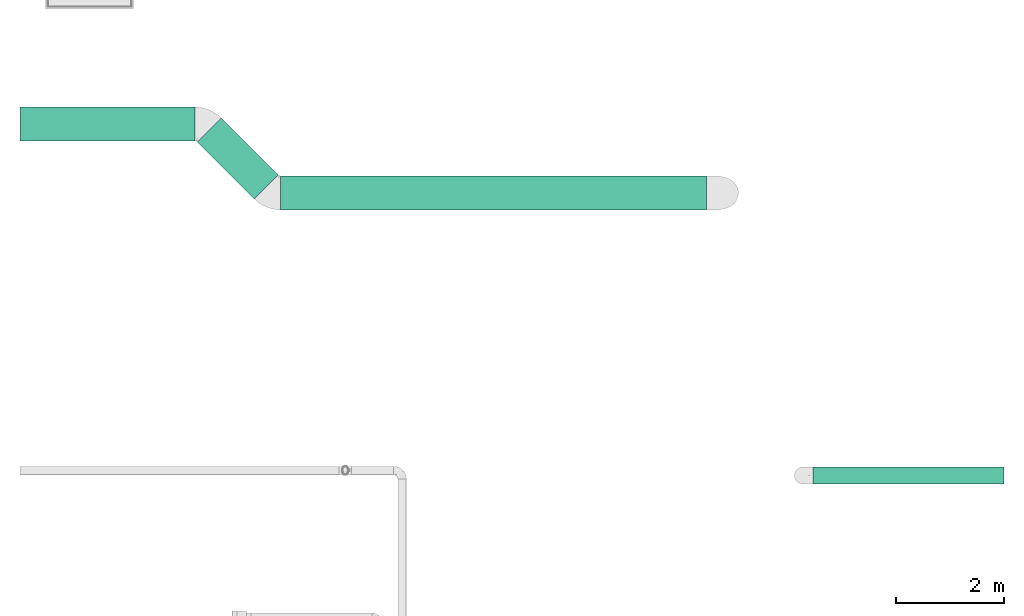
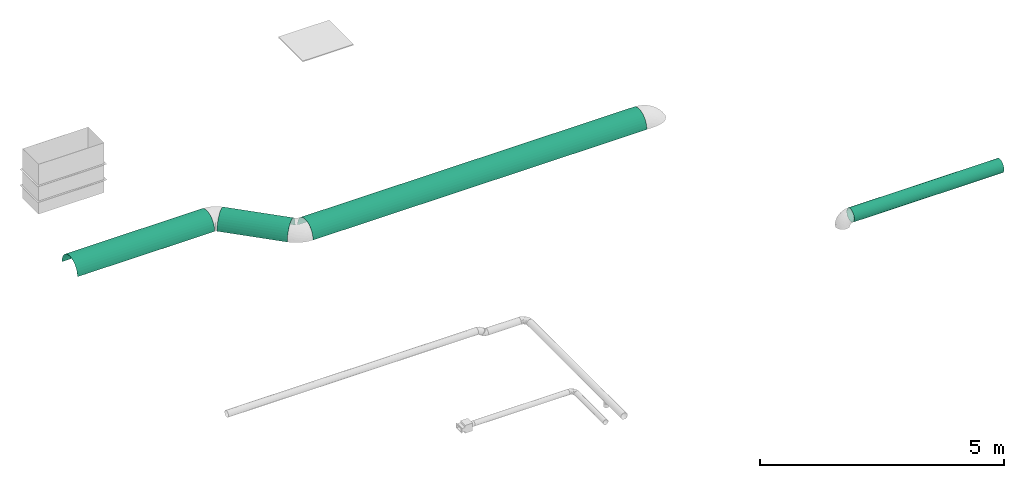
# One storey, part 4 of 10: 4 flow segments.
"""IFC2X3 building model written with IfcOpenShell, lengths in millimetres."""

from ifc_helpers import new_model, entity, si_unit, converted_unit, derived_unit, direction, frame, place, context, subcontext, project, spatial, faceted_brep, type_object, element, save


model = new_model("IFC2X3")

# Units and contexts
model_context = context("Model", 3, precision=0.01, world=frame((0.0, 4.29681676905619e-09, 0.0)), true_north=direction((4.01073788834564e-13, 1.0)))
plan_context = context("Plan", 3, precision=0.01, world=frame((0.0, 4.29681676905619e-09, 0.0)), true_north=direction((4.01073788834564e-13, 1.0)))
body_context = subcontext(model_context, "Body", "Model", "MODEL_VIEW")
ifc_project = project(units=[converted_unit("PLANEANGLEUNIT", "DEGREE", entity("IfcPositiveLengthMeasure", 0.0174532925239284), si_unit("PLANEANGLEUNIT", "RADIAN"), dimensions=[0, 0, 0, 0, 0, 0, 0]), si_unit("AREAUNIT", "SQUARE_METRE"), si_unit("LENGTHUNIT", "METRE", prefix="MILLI"), si_unit("MASSUNIT", "GRAM", prefix="KILO"), si_unit("POWERUNIT", "WATT"), si_unit("PRESSUREUNIT", "PASCAL"), si_unit("FORCEUNIT", "NEWTON", prefix="KILO"), si_unit("ELECTRICCURRENTUNIT", "AMPERE"), si_unit("THERMODYNAMICTEMPERATUREUNIT", "DEGREE_CELSIUS"), si_unit("TIMEUNIT", "SECOND"), si_unit("VOLUMEUNIT", "CUBIC_METRE"), derived_unit("LINEARVELOCITYUNIT", [(si_unit("LENGTHUNIT", "METRE"), 1), (si_unit("TIMEUNIT", "SECOND"), -1)]), derived_unit("VOLUMETRICFLOWRATEUNIT", [(si_unit("VOLUMEUNIT", "CUBIC_METRE"), 1), (si_unit("TIMEUNIT", "SECOND"), -1)]), derived_unit("THERMALTRANSMITTANCEUNIT", [(si_unit("POWERUNIT", "WATT"), 1), (si_unit("THERMODYNAMICTEMPERATUREUNIT", "KELVIN"), -1), (si_unit("AREAUNIT", "SQUARE_METRE"), -1)])], contexts=[model_context, plan_context])

# Site, building, storey
site_placement = place(None, frame((0.0, -4.29681676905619e-09, 0.0), z_axis=(0.0, 0.0, 1.0), x_axis=(1.0, 0.0, 0.0)))
site = spatial("IfcSite", under=ifc_project, at=site_placement, CompositionType="ELEMENT")
building_placement = place(site_placement, frame((0.0, 4.29681676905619e-09, 0.0), z_axis=(0.0, 0.0, 1.0), x_axis=(1.0, 0.0, 0.0)))
building = spatial("IfcBuilding", under=site, at=building_placement, Name="mc-building", CompositionType="ELEMENT")
storey_placement = place(building_placement, frame((0.0, 0.0, 200300.0), z_axis=(0.0, 0.0, 1.0), x_axis=(1.0, 0.0, 0.0)))
storey = spatial("IfcBuildingStorey", under=building, at=storey_placement, Name="Nivå C", CompositionType="ELEMENT", Elevation=200300.0)

# Flow segments
duct_segment_type = type_object("IfcDuctSegmentType", Name="KK003T - Spiro kanaler, Stålrør", PredefinedType="RIGIDSEGMENT")
flow_segment_1_placement = place(storey_placement, frame((512768.35399, 411281.0, 2715.0), z_axis=(0.0, 0.0, 1.0), x_axis=(1.0, 0.0, 0.0)))
element("IfcFlowSegment", 1, at=flow_segment_1_placement, inside=storey, type_object=duct_segment_type, Name="KK003T - Spiro kanaler, Stålrør", context=body_context, shape_type="Brep", body=[
    faceted_brep([(4336.9, 311.687670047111, -15.0), (1094.14601000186, 311.687670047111, -15.0), (1094.14601000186, 313.0, 0.0), (4336.9, 313.0, 0.0), (1094.14601000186, -313.0, 3.83314448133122e-14), (1094.14601000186, -311.687670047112, -15.0), (4336.9, -311.687670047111, -15.0), (4336.9, -313.0, 3.83314448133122e-14), (1094.14601000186, -308.244826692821, 54.3518796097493), (4336.9, -308.244826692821, 54.3518796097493), (1094.14601000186, -294.123790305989, 107.052304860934), (4336.9, -294.123790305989, 107.052304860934), (1094.14601000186, -271.065951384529, 156.5), (4336.9, -271.065951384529, 156.5), (1094.14601000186, -239.77191069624, 201.192521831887), (4336.9, -239.77191069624, 201.192521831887), (1094.14601000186, -201.192521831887, 239.77191069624), (4336.9, -201.192521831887, 239.77191069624), (1094.14601000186, -156.5, 271.065951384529), (4336.9, -156.5, 271.065951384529), (1094.14601000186, -107.052304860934, 294.123790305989), (4336.9, -107.052304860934, 294.123790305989), (1094.14601000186, -54.3518796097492, 308.244826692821), (4336.9, -54.3518796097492, 308.244826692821), (1094.14601000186, 1.91657224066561e-14, 313.0), (4336.9, 1.91657224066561e-14, 313.0), (1094.14601000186, 54.3518796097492, 308.244826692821), (4336.9, 54.3518796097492, 308.244826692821), (1094.14601000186, 107.052304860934, 294.123790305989), (4336.9, 107.052304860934, 294.123790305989), (1094.14601000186, 156.5, 271.065951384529), (4336.9, 156.5, 271.065951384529), (1094.14601000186, 201.192521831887, 239.77191069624), (4336.9, 201.192521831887, 239.77191069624), (1094.14601000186, 239.77191069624, 201.192521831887), (4336.9, 239.77191069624, 201.192521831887), (1094.14601000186, 271.065951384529, 156.5), (4336.9, 271.065951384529, 156.5), (1094.14601000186, 294.123790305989, 107.052304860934), (4336.9, 294.123790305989, 107.052304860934), (1094.14601000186, 308.244826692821, 54.3518796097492), (4336.9, 308.244826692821, 54.3518796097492), (1094.14601000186, 315.0, 0.0), (4336.9, 313.687670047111, -15.0), (4336.9, 315.0, 0.0), (1094.14601000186, 310.214442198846, 54.6991759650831), (4336.9, 310.214442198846, 54.6991759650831), (1094.14601000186, 296.003175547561, 107.736345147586), (4336.9, 296.003175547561, 107.736345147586), (1094.14601000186, 272.798002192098, 157.5), (4336.9, 272.798002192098, 157.5), (1094.14601000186, 241.303999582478, 202.47809705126), (4336.9, 241.303999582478, 202.47809705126), (1094.14601000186, 202.47809705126, 241.303999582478), (4336.9, 202.47809705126, 241.303999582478), (1094.14601000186, 157.5, 272.798002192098), (4336.9, 157.5, 272.798002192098), (1094.14601000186, 107.736345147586, 296.003175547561), (4336.9, 107.736345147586, 296.003175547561), (1094.14601000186, 54.6991759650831, 310.214442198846), (4336.9, 54.6991759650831, 310.214442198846), (1094.14601000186, 1.92881870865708e-14, 315.0), (4336.9, 1.92881870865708e-14, 315.0), (1094.14601000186, -54.699175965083, 310.214442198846), (4336.9, -54.699175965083, 310.214442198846), (1094.14601000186, -107.736345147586, 296.003175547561), (4336.9, -107.736345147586, 296.003175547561), (1094.14601000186, -157.5, 272.798002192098), (4336.9, -157.5, 272.798002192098), (1094.14601000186, -202.47809705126, 241.303999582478), (4336.9, -202.47809705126, 241.303999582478), (1094.14601000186, -241.303999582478, 202.47809705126), (4336.9, -241.303999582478, 202.47809705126), (1094.14601000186, -272.798002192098, 157.5), (4336.9, -272.798002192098, 157.5), (1094.14601000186, -296.003175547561, 107.736345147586), (4336.9, -296.003175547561, 107.736345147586), (1094.14601000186, -310.214442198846, 54.6991759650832), (4336.9, -310.214442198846, 54.6991759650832), (1094.14601000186, -315.0, 3.85763741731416e-14), (4336.9, -315.0, 3.85763741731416e-14), (4336.9, -313.687670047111, -15.0), (1094.14601000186, 313.687670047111, -15.0), (1094.14601000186, -313.687670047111, -15.0)], [[[0, 1, 2, 3]], [[4, 5, 6, 7]], [[8, 4, 7, 9]], [[10, 8, 9, 11]], [[12, 10, 11, 13]], [[14, 12, 13, 15]], [[16, 14, 15, 17]], [[18, 16, 17, 19]], [[20, 18, 19, 21]], [[22, 20, 21, 23]], [[24, 22, 23, 25]], [[26, 24, 25, 27]], [[28, 26, 27, 29]], [[30, 28, 29, 31]], [[32, 30, 31, 33]], [[34, 32, 33, 35]], [[36, 34, 35, 37]], [[38, 36, 37, 39]], [[40, 38, 39, 41]], [[2, 40, 41, 3]], [[42, 1, 43, 44]], [[45, 42, 44, 46]], [[47, 45, 46, 48]], [[49, 47, 48, 50]], [[51, 49, 50, 52]], [[53, 51, 52, 54]], [[55, 53, 54, 56]], [[57, 55, 56, 58]], [[59, 57, 58, 60]], [[61, 59, 60, 62]], [[63, 61, 62, 64]], [[65, 63, 64, 66]], [[67, 65, 66, 68]], [[69, 67, 68, 70]], [[71, 69, 70, 72]], [[73, 71, 72, 74]], [[75, 73, 74, 76]], [[77, 75, 76, 78]], [[79, 77, 78, 80]], [[81, 5, 79, 80]], [[43, 0, 3, 41, 39, 37, 35, 33, 31, 29, 27, 25, 23, 21, 19, 17, 15, 13, 11, 9, 7, 6, 81, 80, 78, 76, 74, 72, 70, 68, 66, 64, 62, 60, 58, 56, 54, 52, 50, 48, 46, 44]], [[82, 42, 45, 47, 49, 51, 53, 55, 57, 59, 61, 63, 65, 67, 69, 71, 73, 75, 77, 79, 83, 4, 8, 10, 12, 14, 16, 18, 20, 22, 24, 26, 28, 30, 32, 34, 36, 38, 40, 2]], [[82, 0, 43]], [[83, 81, 6]]], orient=[[False], [False], [False], [False], [False], [False], [False], [False], [False], [False], [False], [False], [False], [False], [False], [False], [False], [False], [False], [False], [False], [False], [False], [False], [False], [False], [False], [False], [False], [False], [False], [False], [False], [False], [False], [False], [False], [False], [False], [False], [False], [False], [False], [False]]),
])
flow_segment_2_placement = place(storey_placement, frame((517372.49489, 411170.28636, 2715.0), z_axis=(0.0, 0.0, 1.0), x_axis=(0.707106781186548, -0.707106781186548, 0.0)))
element("IfcFlowSegment", 2, at=flow_segment_2_placement, inside=storey, type_object=duct_segment_type, Name="KK003T - Spiro kanaler, Stålrør", context=body_context, shape_type="Brep", body=[
    faceted_brep([(1490.6, 311.687670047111, -15.0), (0.0, 311.687670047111, -15.0), (0.0, 313.0, 0.0), (1490.6, 313.0, 0.0), (0.0, -311.687670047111, -15.0), (1490.6, -311.687670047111, -15.0), (1490.6, -313.0, 3.83314448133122e-14), (0.0, -313.0, 3.83314448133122e-14), (1490.6, -308.244826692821, 54.3518796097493), (0.0, -308.244826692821, 54.3518796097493), (1490.6, -294.123790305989, 107.052304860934), (0.0, -294.123790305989, 107.052304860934), (1490.6, -271.065951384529, 156.5), (0.0, -271.065951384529, 156.5), (1490.6, -239.77191069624, 201.192521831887), (0.0, -239.77191069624, 201.192521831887), (1490.6, -201.192521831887, 239.77191069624), (0.0, -201.192521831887, 239.77191069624), (1490.6, -156.5, 271.065951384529), (0.0, -156.5, 271.065951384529), (1490.6, -107.052304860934, 294.123790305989), (0.0, -107.052304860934, 294.123790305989), (1490.6, -54.3518796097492, 308.244826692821), (0.0, -54.3518796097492, 308.244826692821), (1490.6, 1.91657224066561e-14, 313.0), (0.0, 1.91657224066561e-14, 313.0), (1490.6, 54.3518796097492, 308.244826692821), (0.0, 54.3518796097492, 308.244826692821), (1490.6, 107.052304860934, 294.123790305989), (0.0, 107.052304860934, 294.123790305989), (1490.6, 156.5, 271.065951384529), (0.0, 156.5, 271.065951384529), (1490.6, 201.192521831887, 239.77191069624), (0.0, 201.192521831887, 239.77191069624), (1490.6, 239.77191069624, 201.192521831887), (0.0, 239.77191069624, 201.192521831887), (1490.6, 271.065951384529, 156.5), (0.0, 271.065951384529, 156.5), (1490.6, 294.123790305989, 107.052304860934), (0.0, 294.123790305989, 107.052304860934), (1490.6, 308.244826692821, 54.3518796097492), (0.0, 308.244826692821, 54.3518796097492), (0.0, 313.687670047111, -15.0), (1490.6, 313.687670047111, -15.0), (1490.6, 315.0, 0.0), (0.0, 315.0, 0.0), (1490.6, 310.214442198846, 54.6991759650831), (0.0, 310.214442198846, 54.6991759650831), (1490.6, 296.003175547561, 107.736345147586), (0.0, 296.003175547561, 107.736345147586), (1490.6, 272.798002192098, 157.5), (0.0, 272.798002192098, 157.5), (1490.6, 241.303999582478, 202.47809705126), (0.0, 241.303999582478, 202.47809705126), (1490.6, 202.47809705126, 241.303999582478), (0.0, 202.47809705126, 241.303999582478), (1490.6, 157.5, 272.798002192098), (0.0, 157.5, 272.798002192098), (1490.6, 107.736345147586, 296.003175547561), (0.0, 107.736345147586, 296.003175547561), (1490.6, 54.6991759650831, 310.214442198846), (0.0, 54.6991759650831, 310.214442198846), (1490.6, 1.92881870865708e-14, 315.0), (0.0, 1.92881870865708e-14, 315.0), (1490.6, -54.699175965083, 310.214442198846), (0.0, -54.699175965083, 310.214442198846), (1490.6, -107.736345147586, 296.003175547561), (0.0, -107.736345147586, 296.003175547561), (1490.6, -157.5, 272.798002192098), (0.0, -157.5, 272.798002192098), (1490.6, -202.47809705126, 241.303999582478), (0.0, -202.47809705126, 241.303999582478), (1490.6, -241.303999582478, 202.47809705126), (0.0, -241.303999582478, 202.47809705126), (1490.6, -272.798002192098, 157.5), (0.0, -272.798002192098, 157.5), (1490.6, -296.003175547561, 107.736345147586), (0.0, -296.003175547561, 107.736345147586), (1490.6, -310.214442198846, 54.6991759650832), (0.0, -310.214442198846, 54.6991759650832), (1490.6, -315.0, 3.85763741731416e-14), (0.0, -315.0, 3.85763741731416e-14), (1490.6, -313.687670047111, -15.0), (0.0, -313.687670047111, -15.0)], [[[0, 1, 2, 3]], [[4, 5, 6, 7]], [[7, 6, 8, 9]], [[9, 8, 10, 11]], [[11, 10, 12, 13]], [[13, 12, 14, 15]], [[15, 14, 16, 17]], [[17, 16, 18, 19]], [[19, 18, 20, 21]], [[21, 20, 22, 23]], [[23, 22, 24, 25]], [[25, 24, 26, 27]], [[27, 26, 28, 29]], [[29, 28, 30, 31]], [[31, 30, 32, 33]], [[33, 32, 34, 35]], [[35, 34, 36, 37]], [[37, 36, 38, 39]], [[39, 38, 40, 41]], [[41, 40, 3, 2]], [[42, 43, 44, 45]], [[45, 44, 46, 47]], [[47, 46, 48, 49]], [[49, 48, 50, 51]], [[51, 50, 52, 53]], [[53, 52, 54, 55]], [[55, 54, 56, 57]], [[57, 56, 58, 59]], [[59, 58, 60, 61]], [[61, 60, 62, 63]], [[63, 62, 64, 65]], [[65, 64, 66, 67]], [[67, 66, 68, 69]], [[69, 68, 70, 71]], [[71, 70, 72, 73]], [[73, 72, 74, 75]], [[75, 74, 76, 77]], [[77, 76, 78, 79]], [[79, 78, 80, 81]], [[82, 83, 81, 80]], [[83, 4, 7, 9, 11, 13, 15, 17, 19, 21, 23, 25, 27, 29, 31, 33, 35, 37, 39, 41, 2, 1, 42, 45, 47, 49, 51, 53, 55, 57, 59, 61, 63, 65, 67, 69, 71, 73, 75, 77, 79, 81]], [[43, 0, 3, 40, 38, 36, 34, 32, 30, 28, 26, 24, 22, 20, 18, 16, 14, 12, 10, 8, 6, 5, 82, 80, 78, 76, 74, 72, 70, 68, 66, 64, 62, 60, 58, 56, 54, 52, 50, 48, 46, 44]], [[43, 42, 1, 0]], [[83, 82, 5, 4]]], orient=[[False], [False], [False], [False], [False], [False], [False], [False], [False], [False], [False], [False], [False], [False], [False], [False], [False], [False], [False], [False], [False], [False], [False], [False], [False], [False], [False], [False], [False], [False], [False], [False], [False], [False], [False], [False], [False], [False], [False], [False], [False], [False], [False], [False]]),
])
flow_segment_3_placement = place(storey_placement, frame((518693.81648, 410005.5375, 2715.0), z_axis=(0.0, 0.0, 1.0), x_axis=(1.0, 0.0, 0.0)))
element("IfcFlowSegment", 3, at=flow_segment_3_placement, inside=storey, type_object=duct_segment_type, Name="KK003T - Spiro kanaler, Stålrør", context=body_context, shape_type="Brep", body=[
    faceted_brep([(7891.4, 311.687670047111, -15.0), (0.0, 311.687670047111, -15.0), (0.0, 313.0, 0.0), (7891.4, 313.0, 0.0), (0.0, -311.687670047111, -15.0), (7891.4, -311.687670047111, -15.0), (7891.4, -313.0, 3.83314448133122e-14), (0.0, -313.0, 3.83314448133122e-14), (7891.4, -308.244826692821, 54.3518796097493), (0.0, -308.244826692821, 54.3518796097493), (7891.4, -294.123790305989, 107.052304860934), (0.0, -294.123790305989, 107.052304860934), (7891.4, -271.065951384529, 156.5), (0.0, -271.065951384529, 156.5), (7891.4, -239.77191069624, 201.192521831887), (0.0, -239.77191069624, 201.192521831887), (7891.4, -201.192521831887, 239.77191069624), (0.0, -201.192521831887, 239.77191069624), (7891.4, -156.5, 271.065951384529), (0.0, -156.5, 271.065951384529), (7891.4, -107.052304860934, 294.123790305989), (0.0, -107.052304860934, 294.123790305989), (7891.4, -54.3518796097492, 308.244826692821), (0.0, -54.3518796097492, 308.244826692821), (7891.4, 1.91657224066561e-14, 313.0), (0.0, 1.91657224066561e-14, 313.0), (7891.4, 54.3518796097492, 308.244826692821), (0.0, 54.3518796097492, 308.244826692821), (7891.4, 107.052304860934, 294.123790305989), (0.0, 107.052304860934, 294.123790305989), (7891.4, 156.5, 271.065951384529), (0.0, 156.5, 271.065951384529), (7891.4, 201.192521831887, 239.77191069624), (0.0, 201.192521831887, 239.77191069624), (7891.4, 239.77191069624, 201.192521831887), (0.0, 239.77191069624, 201.192521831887), (7891.4, 271.065951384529, 156.5), (0.0, 271.065951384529, 156.5), (7891.4, 294.123790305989, 107.052304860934), (0.0, 294.123790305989, 107.052304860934), (7891.4, 308.244826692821, 54.3518796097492), (0.0, 308.244826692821, 54.3518796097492), (0.0, 313.687670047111, -15.0), (7891.4, 313.687670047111, -15.0), (7891.4, 315.0, 0.0), (0.0, 315.0, 0.0), (7891.4, 310.214442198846, 54.6991759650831), (0.0, 310.214442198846, 54.6991759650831), (7891.4, 296.003175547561, 107.736345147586), (0.0, 296.003175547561, 107.736345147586), (7891.4, 272.798002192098, 157.5), (0.0, 272.798002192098, 157.5), (7891.4, 241.303999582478, 202.47809705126), (0.0, 241.303999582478, 202.47809705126), (7891.4, 202.47809705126, 241.303999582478), (0.0, 202.47809705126, 241.303999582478), (7891.4, 157.5, 272.798002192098), (0.0, 157.5, 272.798002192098), (7891.4, 107.736345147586, 296.003175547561), (0.0, 107.736345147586, 296.003175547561), (7891.4, 54.6991759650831, 310.214442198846), (0.0, 54.6991759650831, 310.214442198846), (7891.4, 1.92881870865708e-14, 315.0), (0.0, 1.92881870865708e-14, 315.0), (7891.4, -54.699175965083, 310.214442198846), (0.0, -54.699175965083, 310.214442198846), (7891.4, -107.736345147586, 296.003175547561), (0.0, -107.736345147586, 296.003175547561), (7891.4, -157.5, 272.798002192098), (0.0, -157.5, 272.798002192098), (7891.4, -202.47809705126, 241.303999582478), (0.0, -202.47809705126, 241.303999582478), (7891.4, -241.303999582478, 202.47809705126), (0.0, -241.303999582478, 202.47809705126), (7891.4, -272.798002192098, 157.5), (0.0, -272.798002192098, 157.5), (7891.4, -296.003175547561, 107.736345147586), (0.0, -296.003175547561, 107.736345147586), (7891.4, -310.214442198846, 54.6991759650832), (0.0, -310.214442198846, 54.6991759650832), (7891.4, -315.0, 3.85763741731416e-14), (0.0, -315.0, 3.85763741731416e-14), (7891.4, -313.687670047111, -15.0), (0.0, -313.687670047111, -15.0)], [[[0, 1, 2, 3]], [[4, 5, 6, 7]], [[7, 6, 8, 9]], [[9, 8, 10, 11]], [[11, 10, 12, 13]], [[13, 12, 14, 15]], [[15, 14, 16, 17]], [[17, 16, 18, 19]], [[19, 18, 20, 21]], [[21, 20, 22, 23]], [[23, 22, 24, 25]], [[25, 24, 26, 27]], [[27, 26, 28, 29]], [[29, 28, 30, 31]], [[31, 30, 32, 33]], [[33, 32, 34, 35]], [[35, 34, 36, 37]], [[37, 36, 38, 39]], [[39, 38, 40, 41]], [[41, 40, 3, 2]], [[42, 43, 44, 45]], [[45, 44, 46, 47]], [[47, 46, 48, 49]], [[49, 48, 50, 51]], [[51, 50, 52, 53]], [[53, 52, 54, 55]], [[55, 54, 56, 57]], [[57, 56, 58, 59]], [[59, 58, 60, 61]], [[61, 60, 62, 63]], [[63, 62, 64, 65]], [[65, 64, 66, 67]], [[67, 66, 68, 69]], [[69, 68, 70, 71]], [[71, 70, 72, 73]], [[73, 72, 74, 75]], [[75, 74, 76, 77]], [[77, 76, 78, 79]], [[79, 78, 80, 81]], [[82, 83, 81, 80]], [[83, 4, 7, 9, 11, 13, 15, 17, 19, 21, 23, 25, 27, 29, 31, 33, 35, 37, 39, 41, 2, 1, 42, 45, 47, 49, 51, 53, 55, 57, 59, 61, 63, 65, 67, 69, 71, 73, 75, 77, 79, 81]], [[43, 0, 3, 40, 38, 36, 34, 32, 30, 28, 26, 24, 22, 20, 18, 16, 14, 12, 10, 8, 6, 5, 82, 80, 78, 76, 74, 72, 70, 68, 66, 64, 62, 60, 58, 56, 54, 52, 50, 48, 46, 44]], [[43, 42, 1, 0]], [[83, 82, 5, 4]]], orient=[[False], [False], [False], [False], [False], [False], [False], [False], [False], [False], [False], [False], [False], [False], [False], [False], [False], [False], [False], [False], [False], [False], [False], [False], [False], [False], [False], [False], [False], [False], [False], [False], [False], [False], [False], [False], [False], [False], [False], [False], [False], [False], [False], [False]]),
])
flow_segment_4_placement = place(storey_placement, frame((528557.0, 404770.474, 2857.5), z_axis=(0.0, 0.0, 1.0), x_axis=(1.0, 0.0, 0.0)))
element("IfcFlowSegment", 4, at=flow_segment_4_placement, inside=storey, type_object=duct_segment_type, Name="KK003T - Spiro kanaler, Stålrør", context=body_context, shape_type="Brep", body=[
    faceted_brep([(3538.00000000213, 155.5, 0.0), (3538.00000000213, 153.137605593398, -27.0022916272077), (0.0, 153.137605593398, -27.0022916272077), (0.0, 155.5, 0.0), (3538.00000000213, 146.122202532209, -53.1841322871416), (0.0, 146.122202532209, -53.1841322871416), (3538.00000000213, 134.66695028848, -77.7500000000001), (0.0, 134.66695028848, -77.7500000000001), (3538.00000000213, 119.119910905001, -99.9534733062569), (0.0, 119.119910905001, -99.9534733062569), (3538.00000000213, 99.9534733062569, -119.119910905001), (0.0, 99.9534733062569, -119.119910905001), (3538.00000000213, 77.75, -134.66695028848), (0.0, 77.75, -134.66695028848), (3538.00000000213, 53.1841322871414, -146.122202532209), (0.0, 53.1841322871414, -146.122202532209), (3538.00000000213, 27.0022916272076, -153.137605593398), (0.0, 27.0022916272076, -153.137605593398), (3538.00000000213, -2.8564886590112e-14, -155.5), (0.0, -2.8564886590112e-14, -155.5), (3538.00000000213, -27.0022916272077, -153.137605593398), (0.0, -27.0022916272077, -153.137605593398), (3538.00000000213, -53.1841322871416, -146.122202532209), (0.0, -53.1841322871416, -146.122202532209), (3538.00000000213, -77.7500000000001, -134.66695028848), (0.0, -77.7500000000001, -134.66695028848), (3538.00000000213, -99.9534733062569, -119.119910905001), (0.0, -99.9534733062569, -119.119910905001), (3538.00000000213, -119.119910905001, -99.9534733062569), (0.0, -119.119910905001, -99.9534733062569), (3538.00000000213, -134.66695028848, -77.75), (0.0, -134.66695028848, -77.75), (3538.00000000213, -146.122202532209, -53.1841322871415), (0.0, -146.122202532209, -53.1841322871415), (3538.00000000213, -153.137605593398, -27.0022916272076), (0.0, -153.137605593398, -27.0022916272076), (3538.00000000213, -155.5, 1.90432577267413e-14), (0.0, -155.5, 1.90432577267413e-14), (3538.00000000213, -153.137605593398, 27.0022916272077), (0.0, -153.137605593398, 27.0022916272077), (3538.00000000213, -146.122202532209, 53.1841322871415), (0.0, -146.122202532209, 53.1841322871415), (3538.00000000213, -134.66695028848, 77.75), (0.0, -134.66695028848, 77.75), (3538.00000000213, -119.119910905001, 99.9534733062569), (0.0, -119.119910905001, 99.9534733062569), (3538.00000000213, -99.9534733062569, 119.119910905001), (0.0, -99.9534733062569, 119.119910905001), (3538.00000000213, -77.75, 134.66695028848), (0.0, -77.75, 134.66695028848), (3538.00000000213, -53.1841322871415, 146.122202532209), (0.0, -53.1841322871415, 146.122202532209), (3538.00000000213, -27.0022916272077, 153.137605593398), (0.0, -27.0022916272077, 153.137605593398), (3538.00000000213, 9.52162886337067e-15, 155.5), (0.0, 9.52162886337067e-15, 155.5), (3538.00000000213, 27.0022916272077, 153.137605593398), (0.0, 27.0022916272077, 153.137605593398), (3538.00000000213, 53.1841322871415, 146.122202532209), (0.0, 53.1841322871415, 146.122202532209), (3538.00000000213, 77.75, 134.66695028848), (0.0, 77.75, 134.66695028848), (3538.00000000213, 99.9534733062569, 119.119910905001), (0.0, 99.9534733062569, 119.119910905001), (3538.00000000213, 119.119910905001, 99.9534733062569), (0.0, 119.119910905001, 99.9534733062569), (3538.00000000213, 134.66695028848, 77.75), (0.0, 134.66695028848, 77.75), (3538.00000000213, 146.122202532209, 53.1841322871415), (0.0, 146.122202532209, 53.1841322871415), (3538.00000000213, 153.137605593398, 27.0022916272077), (0.0, 153.137605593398, 27.0022916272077), (3538.00000000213, 155.107221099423, -27.3495879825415), (3538.00000000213, 157.5, 0.0), (0.0, 157.5, 0.0), (0.0, 155.107221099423, -27.3495879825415), (3538.00000000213, 155.107221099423, 27.3495879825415), (0.0, 155.107221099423, 27.3495879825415), (3538.00000000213, 148.001587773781, 53.8681725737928), (0.0, 148.001587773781, 53.8681725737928), (3538.00000000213, 136.399001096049, 78.75), (0.0, 136.399001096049, 78.75), (3538.00000000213, 120.651999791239, 101.23904852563), (0.0, 120.651999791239, 101.23904852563), (3538.00000000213, 101.23904852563, 120.651999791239), (0.0, 101.23904852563, 120.651999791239), (3538.00000000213, 78.75, 136.399001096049), (0.0, 78.75, 136.399001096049), (3538.00000000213, 53.8681725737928, 148.001587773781), (0.0, 53.8681725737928, 148.001587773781), (3538.00000000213, 27.3495879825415, 155.107221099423), (0.0, 27.3495879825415, 155.107221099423), (3538.00000000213, 9.64409354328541e-15, 157.5), (0.0, 9.64409354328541e-15, 157.5), (3538.00000000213, -27.3495879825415, 155.107221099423), (0.0, -27.3495879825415, 155.107221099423), (3538.00000000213, -53.8681725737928, 148.001587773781), (0.0, -53.8681725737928, 148.001587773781), (3538.00000000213, -78.75, 136.399001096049), (0.0, -78.75, 136.399001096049), (3538.00000000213, -101.23904852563, 120.651999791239), (0.0, -101.23904852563, 120.651999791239), (3538.00000000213, -120.651999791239, 101.23904852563), (0.0, -120.651999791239, 101.23904852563), (3538.00000000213, -136.399001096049, 78.75), (0.0, -136.399001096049, 78.75), (3538.00000000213, -148.001587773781, 53.8681725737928), (0.0, -148.001587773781, 53.8681725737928), (3538.00000000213, -155.107221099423, 27.3495879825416), (0.0, -155.107221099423, 27.3495879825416), (3538.00000000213, -157.5, 1.92881870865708e-14), (0.0, -157.5, 1.92881870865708e-14), (3538.00000000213, -155.107221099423, -27.3495879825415), (0.0, -155.107221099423, -27.3495879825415), (3538.00000000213, -148.001587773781, -53.8681725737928), (0.0, -148.001587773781, -53.8681725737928), (3538.00000000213, -136.399001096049, -78.75), (0.0, -136.399001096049, -78.75), (3538.00000000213, -120.651999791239, -101.23904852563), (0.0, -120.651999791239, -101.23904852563), (3538.00000000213, -101.23904852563, -120.651999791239), (0.0, -101.23904852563, -120.651999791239), (3538.00000000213, -78.7500000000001, -136.399001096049), (0.0, -78.7500000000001, -136.399001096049), (3538.00000000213, -53.8681725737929, -148.001587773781), (0.0, -53.8681725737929, -148.001587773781), (3538.00000000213, -27.3495879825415, -155.107221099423), (0.0, -27.3495879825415, -155.107221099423), (3538.00000000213, -9.09494701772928e-13, -157.5), (0.0, -2.89322806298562e-14, -157.5), (3538.00000000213, 27.3495879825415, -155.107221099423), (0.0, 27.3495879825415, -155.107221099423), (3538.00000000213, 53.8681725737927, -148.001587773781), (0.0, 53.8681725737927, -148.001587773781), (3538.00000000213, 78.75, -136.399001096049), (0.0, 78.75, -136.399001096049), (3538.00000000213, 101.23904852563, -120.651999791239), (0.0, 101.23904852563, -120.651999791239), (3538.00000000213, 120.651999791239, -101.23904852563), (0.0, 120.651999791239, -101.23904852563), (3538.00000000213, 136.399001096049, -78.7500000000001), (0.0, 136.399001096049, -78.7500000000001), (3538.00000000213, 148.001587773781, -53.8681725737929), (0.0, 148.001587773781, -53.8681725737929)], [[[0, 1, 2, 3]], [[1, 4, 5, 2]], [[4, 6, 7, 5]], [[6, 8, 9, 7]], [[8, 10, 11, 9]], [[10, 12, 13, 11]], [[12, 14, 15, 13]], [[14, 16, 17, 15]], [[16, 18, 19, 17]], [[18, 20, 21, 19]], [[20, 22, 23, 21]], [[22, 24, 25, 23]], [[24, 26, 27, 25]], [[26, 28, 29, 27]], [[28, 30, 31, 29]], [[30, 32, 33, 31]], [[32, 34, 35, 33]], [[34, 36, 37, 35]], [[36, 38, 39, 37]], [[38, 40, 41, 39]], [[40, 42, 43, 41]], [[42, 44, 45, 43]], [[44, 46, 47, 45]], [[46, 48, 49, 47]], [[48, 50, 51, 49]], [[50, 52, 53, 51]], [[52, 54, 55, 53]], [[54, 56, 57, 55]], [[56, 58, 59, 57]], [[58, 60, 61, 59]], [[60, 62, 63, 61]], [[62, 64, 65, 63]], [[64, 66, 67, 65]], [[66, 68, 69, 67]], [[68, 70, 71, 69]], [[70, 0, 3, 71]], [[72, 73, 74, 75]], [[73, 76, 77, 74]], [[76, 78, 79, 77]], [[78, 80, 81, 79]], [[80, 82, 83, 81]], [[82, 84, 85, 83]], [[84, 86, 87, 85]], [[86, 88, 89, 87]], [[88, 90, 91, 89]], [[90, 92, 93, 91]], [[92, 94, 95, 93]], [[94, 96, 97, 95]], [[96, 98, 99, 97]], [[98, 100, 101, 99]], [[100, 102, 103, 101]], [[102, 104, 105, 103]], [[104, 106, 107, 105]], [[106, 108, 109, 107]], [[108, 110, 111, 109]], [[110, 112, 113, 111]], [[112, 114, 115, 113]], [[114, 116, 117, 115]], [[116, 118, 119, 117]], [[118, 120, 121, 119]], [[120, 122, 123, 121]], [[122, 124, 125, 123]], [[124, 126, 127, 125]], [[126, 128, 129, 127]], [[128, 130, 131, 129]], [[130, 132, 133, 131]], [[132, 134, 135, 133]], [[134, 136, 137, 135]], [[136, 138, 139, 137]], [[138, 140, 141, 139]], [[140, 142, 143, 141]], [[142, 72, 75, 143]], [[75, 74, 77, 79, 81, 83, 85, 87, 89, 91, 93, 95, 97, 99, 101, 103, 105, 107, 109, 111, 113, 115, 117, 119, 121, 123, 125, 127, 129, 131, 133, 135, 137, 139, 141, 143], [3, 2, 5, 7, 9, 11, 13, 15, 17, 19, 21, 23, 25, 27, 29, 31, 33, 35, 37, 39, 41, 43, 45, 47, 49, 51, 53, 55, 57, 59, 61, 63, 65, 67, 69, 71]], [[142, 140, 138, 136, 134, 132, 130, 128, 126, 124, 122, 120, 118, 116, 114, 112, 110, 108, 106, 104, 102, 100, 98, 96, 94, 92, 90, 88, 86, 84, 82, 80, 78, 76, 73, 72], [70, 68, 66, 64, 62, 60, 58, 56, 54, 52, 50, 48, 46, 44, 42, 40, 38, 36, 34, 32, 30, 28, 26, 24, 22, 20, 18, 16, 14, 12, 10, 8, 6, 4, 1, 0]]], orient=[[False], [False], [False], [False], [False], [False], [False], [False], [False], [False], [False], [False], [False], [False], [False], [False], [False], [False], [False], [False], [False], [False], [False], [False], [False], [False], [False], [False], [False], [False], [False], [False], [False], [False], [False], [False], [False], [False], [False], [False], [False], [False], [False], [False], [False], [False], [False], [False], [False], [False], [False], [False], [False], [False], [False], [False], [False], [False], [False], [False], [False], [False], [False], [False], [False], [False], [False], [False], [False], [False], [False], [False], [False, False], [False, False]]),
])

save(model, "model.ifc")
